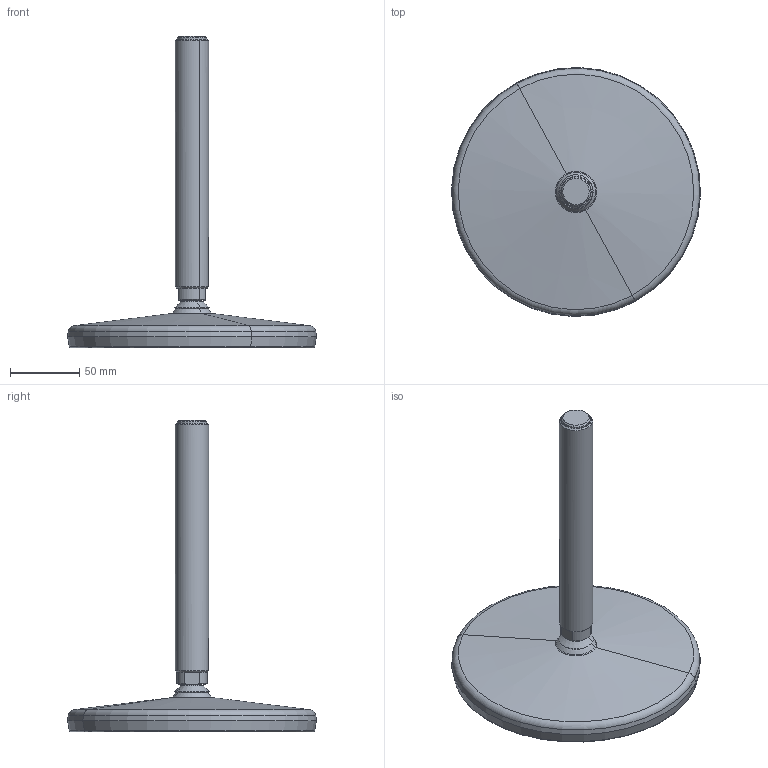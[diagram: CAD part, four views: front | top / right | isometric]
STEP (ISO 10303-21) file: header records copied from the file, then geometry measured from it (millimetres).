
FILE_DESCRIPTION(('STEP AP214'),'1');
FILE_NAME('P97904_01','2017-03-15T08:29:00',('dentellad'),(' '),'Spatial InterOp 3D',' ',' ');
FILE_SCHEMA(('automotive_design'));
Length unit declared in the file: millimetre
Products named in the file (4): 1; 2; 3; 4
Bounding box: 179.95 x 179.95 x 225.15 mm (x, y, z)
Volume: 566053.7 mm3; surface area: 131725.6 mm2
Topology: 4 solids, 4 shells, 112 faces, 229 edges, 136 vertices
Faces by surface type: cone 43, plane 23, cylinder 18, torus 18, revolution 8, sphere 2
Entity records: 5211 total; most frequent: CARTESIAN_POINT 704, DIRECTION 573, ORIENTED_EDGE 458, STYLED_ITEM 332, PRESENTATION_STYLE_ASSIGNMENT 332, COLOUR_RGB 332, AXIS2_PLACEMENT_3D 250, EDGE_CURVE 229
